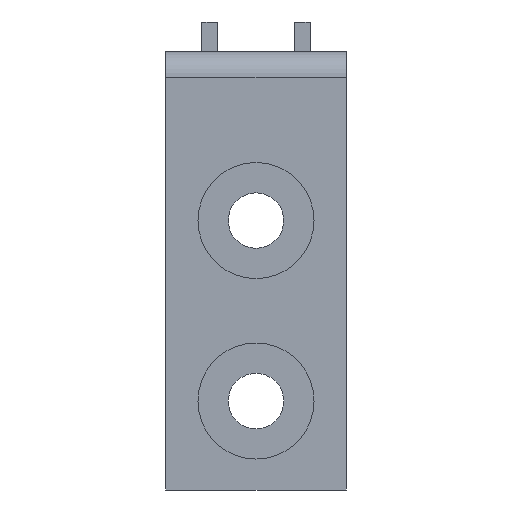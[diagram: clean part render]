
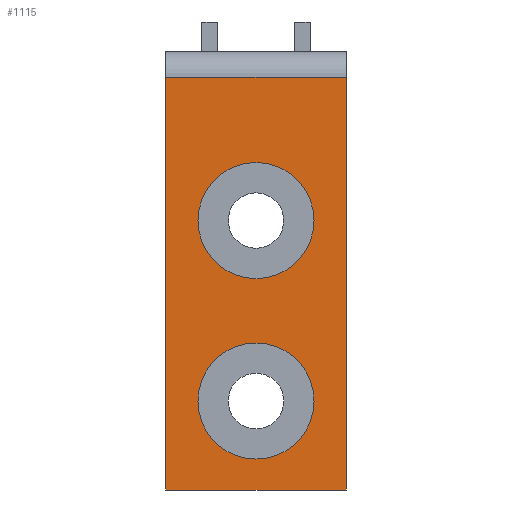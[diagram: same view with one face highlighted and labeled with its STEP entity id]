
A CAD part, front view. The second image highlights one B-rep face of the part: STEP entity #1115.
In plain terms, the highlighted planar face has unit normal (0, -1, 0).
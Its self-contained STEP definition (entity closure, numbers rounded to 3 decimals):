
#5 = EDGE_CURVE ( 'NONE', #1022, #139, #345, .T. ) ;
#6 = ORIENTED_EDGE ( 'NONE', *, *, #1002, .F. ) ;
#13 = ORIENTED_EDGE ( 'NONE', *, *, #23, .T. ) ;
#15 = ORIENTED_EDGE ( 'NONE', *, *, #1041, .F. ) ;
#17 = EDGE_LOOP ( 'NONE', ( #6, #32, #19, #15 ) ) ;
#19 = ORIENTED_EDGE ( 'NONE', *, *, #135, .F. ) ;
#20 = EDGE_CURVE ( 'NONE', #1080, #1146, #389, .T. ) ;
#21 = ORIENTED_EDGE ( 'NONE', *, *, #20, .T. ) ;
#23 = EDGE_CURVE ( 'NONE', #1062, #1101, #388, .T. ) ;
#26 = ORIENTED_EDGE ( 'NONE', *, *, #1150, .T. ) ;
#31 = EDGE_LOOP ( 'NONE', ( #26, #21 ) ) ;
#32 = ORIENTED_EDGE ( 'NONE', *, *, #5, .T. ) ;
#93 = VERTEX_POINT ( 'NONE', #512 ) ;
#135 = EDGE_CURVE ( 'NONE', #93, #139, #577, .T. ) ;
#139 = VERTEX_POINT ( 'NONE', #575 ) ;
#342 = DIRECTION ( 'NONE',  ( -1., 0., 0. ) ) ;
#343 = VECTOR ( 'NONE', #342, 1000. ) ;
#344 = CARTESIAN_POINT ( 'NONE',  ( -7., -0.6, 32. ) ) ;
#345 = LINE ( 'NONE', #344, #343 ) ;
#374 = DIRECTION ( 'NONE',  ( 0., 0., 1. ) ) ;
#375 = DIRECTION ( 'NONE',  ( 0., 1., 0. ) ) ;
#376 = AXIS2_PLACEMENT_3D ( 'NONE', #383, #375, #374 ) ;
#379 = DIRECTION ( 'NONE',  ( 0., 0., 1. ) ) ;
#380 = DIRECTION ( 'NONE',  ( 0., 1., 0. ) ) ;
#381 = CARTESIAN_POINT ( 'NONE',  ( 0., -0.6, 20.9 ) ) ;
#383 = CARTESIAN_POINT ( 'NONE',  ( 0., -0.6, 6.9 ) ) ;
#388 = CIRCLE ( 'NONE', #376, 4.5 ) ;
#389 = CIRCLE ( 'NONE', #394, 4.5 ) ;
#394 = AXIS2_PLACEMENT_3D ( 'NONE', #381, #380, #379 ) ;
#512 = CARTESIAN_POINT ( 'NONE',  ( -7., -0.6, 0. ) ) ;
#524 = CARTESIAN_POINT ( 'NONE',  ( -7., -0.6, 0. ) ) ;
#567 = DIRECTION ( 'NONE',  ( 0., 0., 1. ) ) ;
#568 = VECTOR ( 'NONE', #567, 1000. ) ;
#575 = CARTESIAN_POINT ( 'NONE',  ( -7., -0.6, 32. ) ) ;
#577 = LINE ( 'NONE', #524, #568 ) ;
#913 = LINE ( 'NONE', #925, #958 ) ;
#925 = CARTESIAN_POINT ( 'NONE',  ( 7., -0.6, 0. ) ) ;
#957 = DIRECTION ( 'NONE',  ( 0., 0., -1. ) ) ;
#958 = VECTOR ( 'NONE', #957, 1000. ) ;
#1002 = EDGE_CURVE ( 'NONE', #1022, #1019, #913, .T. ) ;
#1019 = VERTEX_POINT ( 'NONE', #1183 ) ;
#1022 = VERTEX_POINT ( 'NONE', #1174 ) ;
#1029 = ORIENTED_EDGE ( 'NONE', *, *, #1096, .T. ) ;
#1041 = EDGE_CURVE ( 'NONE', #1019, #93, #1210, .T. ) ;
#1062 = VERTEX_POINT ( 'NONE', #1188 ) ;
#1080 = VERTEX_POINT ( 'NONE', #1266 ) ;
#1096 = EDGE_CURVE ( 'NONE', #1101, #1062, #1256, .T. ) ;
#1101 = VERTEX_POINT ( 'NONE', #1306 ) ;
#1115 = ADVANCED_FACE ( 'NONE', ( #1336, #1322, #1338 ), #1333, .F. ) ;
#1146 = VERTEX_POINT ( 'NONE', #1393 ) ;
#1150 = EDGE_CURVE ( 'NONE', #1146, #1080, #1388, .T. ) ;
#1174 = CARTESIAN_POINT ( 'NONE',  ( 7., -0.6, 32. ) ) ;
#1183 = CARTESIAN_POINT ( 'NONE',  ( 7., -0.6, 0. ) ) ;
#1188 = CARTESIAN_POINT ( 'NONE',  ( 0., -0.6, 2.4 ) ) ;
#1204 = DIRECTION ( 'NONE',  ( -1., 0., 0. ) ) ;
#1205 = VECTOR ( 'NONE', #1204, 1000. ) ;
#1209 = CARTESIAN_POINT ( 'NONE',  ( -7., -0.6, 0. ) ) ;
#1210 = LINE ( 'NONE', #1209, #1205 ) ;
#1256 = CIRCLE ( 'NONE', #1297, 4.5 ) ;
#1266 = CARTESIAN_POINT ( 'NONE',  ( 0., -0.6, 16.4 ) ) ;
#1294 = DIRECTION ( 'NONE',  ( 0., 0., 1. ) ) ;
#1295 = DIRECTION ( 'NONE',  ( 0., 1., 0. ) ) ;
#1296 = CARTESIAN_POINT ( 'NONE',  ( 0., -0.6, 6.9 ) ) ;
#1297 = AXIS2_PLACEMENT_3D ( 'NONE', #1296, #1295, #1294 ) ;
#1306 = CARTESIAN_POINT ( 'NONE',  ( 0., -0.6, 11.4 ) ) ;
#1319 = DIRECTION ( 'NONE',  ( 0., 0., 1. ) ) ;
#1322 = FACE_BOUND ( 'NONE', #31, .T. ) ;
#1326 = DIRECTION ( 'NONE',  ( 0., 1., 0. ) ) ;
#1327 = AXIS2_PLACEMENT_3D ( 'NONE', #1335, #1326, #1319 ) ;
#1333 = PLANE ( 'NONE',  #1327 ) ;
#1335 = CARTESIAN_POINT ( 'NONE',  ( -7., -0.6, 34. ) ) ;
#1336 = FACE_BOUND ( 'NONE', #1496, .T. ) ;
#1338 = FACE_OUTER_BOUND ( 'NONE', #17, .T. ) ;
#1378 = DIRECTION ( 'NONE',  ( 0., 0., 1. ) ) ;
#1379 = DIRECTION ( 'NONE',  ( 0., 1., 0. ) ) ;
#1388 = CIRCLE ( 'NONE', #1400, 4.5 ) ;
#1391 = CARTESIAN_POINT ( 'NONE',  ( 0., -0.6, 20.9 ) ) ;
#1393 = CARTESIAN_POINT ( 'NONE',  ( 0., -0.6, 25.4 ) ) ;
#1400 = AXIS2_PLACEMENT_3D ( 'NONE', #1391, #1379, #1378 ) ;
#1496 = EDGE_LOOP ( 'NONE', ( #1029, #13 ) ) ;
